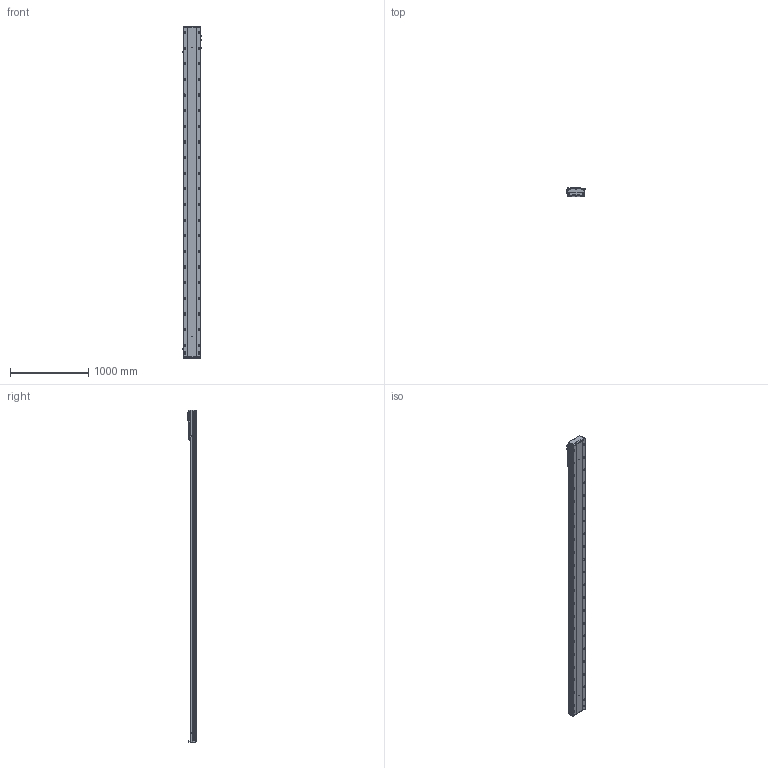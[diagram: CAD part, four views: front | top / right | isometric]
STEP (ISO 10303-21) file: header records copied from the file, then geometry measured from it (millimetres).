
FILE_DESCRIPTION (( 'STEP AP203' ), '1' );
FILE_NAME ('BEH22-A-M2-3800-L1-¦Õ22-PCD100-M6-C3.STEP', '2022-06-21T06:18:04', ( 'CXY' ), ( 'BT' ), 'SwSTEP 2.0', 'SolidWorks 2016', '' );
FILE_SCHEMA (( 'CONFIG_CONTROL_DESIGN' ));
Products named in the file (12): PM-T65; BEH22-B-01-XX-2; FS-25-6.66-M2-H22K6; BEH22-07-PCD100-80-M6; FS-02-BTH22; 萇儂階踡輸; _G-M6; BEH22-04-F; FS-01-10（10毫米）; BEH22-A-M2-3800-L1-耳22-PCD100-M6-C3; BEH22-04-01_L; BTH22-07-DZ
Assembly tree (18 placements, depth 3):
  BEH22-A-M2-3800-L1-耳22-PCD100-M6-C3
    BEH22-B-01-XX-2
    BTH22-07-DZ  x2
    PM-T65  x2
    BEH22-04-01_L
      BEH22-04-F
      萇儂階踡輸
      _G-M6  x3
      FS-02-BTH22
      FS-01-10（10毫米）  x4
      BEH22-07-PCD100-80-M6
      FS-25-6.66-M2-H22K6
Bounding box: 247.7 x 111 x 4248 mm (x, y, z)
Volume: 43697010.6 mm3; surface area: 4240156 mm2
Topology: 21 solids, 21 shells, 2652 faces, 7888 edges, 5138 vertices
Faces by surface type: cylinder 1408, plane 952, cone 233, bspline 37, torus 22
Entity records: 480088 total; most frequent: CARTESIAN_POINT 419279, ORIENTED_EDGE 13596, DIRECTION 11250, EDGE_CURVE 6798, VERTEX_POINT 4498, AXIS2_PLACEMENT_3D 4096, VECTOR 3058, LINE 3058
